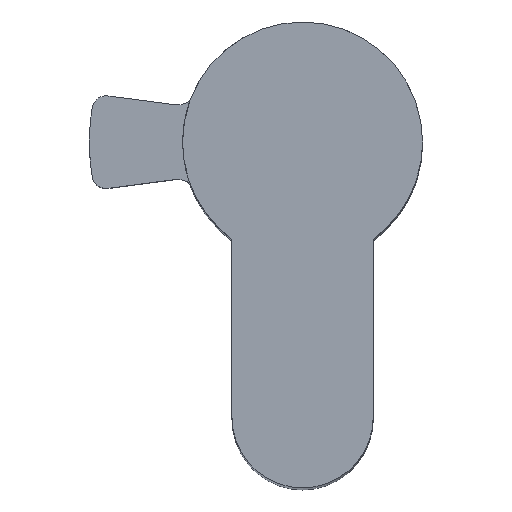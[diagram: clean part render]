
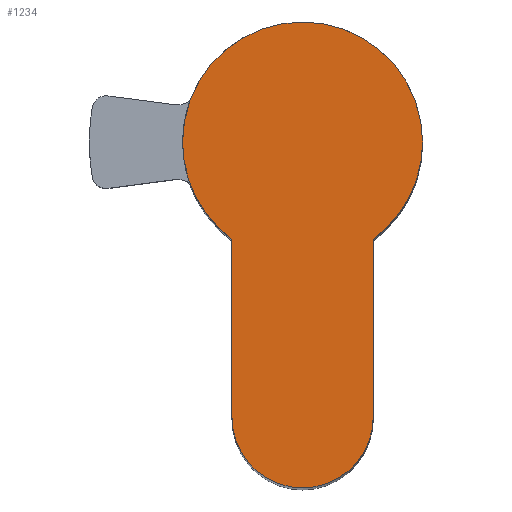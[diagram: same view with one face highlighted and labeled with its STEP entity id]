
A CAD part, top view. The second image highlights one B-rep face of the part: STEP entity #1234.
In plain terms, the highlighted planar face has unit normal (0, 0, 1).
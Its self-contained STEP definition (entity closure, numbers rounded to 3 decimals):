
#16 = AXIS2_PLACEMENT_3D ( 'NONE', #340, #323, #1063 ) ;
#25 = ORIENTED_EDGE ( 'NONE', *, *, #383, .T. ) ;
#47 = DIRECTION ( 'NONE',  ( 1., 0., 0. ) ) ;
#104 = VERTEX_POINT ( 'NONE', #726 ) ;
#107 = EDGE_CURVE ( 'NONE', #1412, #104, #352, .T. ) ;
#114 = VERTEX_POINT ( 'NONE', #1067 ) ;
#138 = LINE ( 'NONE', #1361, #883 ) ;
#158 = VERTEX_POINT ( 'NONE', #295 ) ;
#160 = CARTESIAN_POINT ( 'NONE',  ( -5., -6.874, 10. ) ) ;
#185 = ORIENTED_EDGE ( 'NONE', *, *, #365, .T. ) ;
#198 = CARTESIAN_POINT ( 'NONE',  ( 0., 0., 10. ) ) ;
#220 = DIRECTION ( 'NONE',  ( 1., 0., 0. ) ) ;
#259 = DIRECTION ( 'NONE',  ( 0., 1., 0. ) ) ;
#295 = CARTESIAN_POINT ( 'NONE',  ( 5., -19.5, 10. ) ) ;
#323 = DIRECTION ( 'NONE',  ( 0., 0., 1. ) ) ;
#325 = AXIS2_PLACEMENT_3D ( 'NONE', #770, #508, #47 ) ;
#340 = CARTESIAN_POINT ( 'NONE',  ( 0., -19.5, 10. ) ) ;
#352 = CIRCLE ( 'NONE', #524, 8.5 ) ;
#357 = CIRCLE ( 'NONE', #1249, 8.5 ) ;
#365 = EDGE_CURVE ( 'NONE', #1475, #158, #1174, .T. ) ;
#383 = EDGE_CURVE ( 'NONE', #955, #1475, #940, .T. ) ;
#410 = CIRCLE ( 'NONE', #1520, 8.5 ) ;
#444 = DIRECTION ( 'NONE',  ( 1., 0., 0. ) ) ;
#508 = DIRECTION ( 'NONE',  ( 0., 0., 1. ) ) ;
#513 = ORIENTED_EDGE ( 'NONE', *, *, #1369, .T. ) ;
#516 = EDGE_CURVE ( 'NONE', #158, #1412, #138, .T. ) ;
#524 = AXIS2_PLACEMENT_3D ( 'NONE', #583, #735, #719 ) ;
#548 = EDGE_LOOP ( 'NONE', ( #838, #513, #1502, #25, #185, #814 ) ) ;
#549 = CARTESIAN_POINT ( 'NONE',  ( 5., -6.874, 10. ) ) ;
#583 = CARTESIAN_POINT ( 'NONE',  ( 0., 0., 10. ) ) ;
#647 = VECTOR ( 'NONE', #1417, 1000. ) ;
#719 = DIRECTION ( 'NONE',  ( 1., 0., 0. ) ) ;
#726 = CARTESIAN_POINT ( 'NONE',  ( 8.5, 0., 10. ) ) ;
#735 = DIRECTION ( 'NONE',  ( 0., 0., 1. ) ) ;
#758 = FACE_OUTER_BOUND ( 'NONE', #548, .T. ) ;
#770 = CARTESIAN_POINT ( 'NONE',  ( 0., 0., 10. ) ) ;
#814 = ORIENTED_EDGE ( 'NONE', *, *, #516, .T. ) ;
#825 = CARTESIAN_POINT ( 'NONE',  ( 0., 0., 10. ) ) ;
#838 = ORIENTED_EDGE ( 'NONE', *, *, #107, .T. ) ;
#881 = EDGE_CURVE ( 'NONE', #114, #955, #410, .T. ) ;
#883 = VECTOR ( 'NONE', #259, 1000. ) ;
#940 = LINE ( 'NONE', #1431, #647 ) ;
#955 = VERTEX_POINT ( 'NONE', #160 ) ;
#1063 = DIRECTION ( 'NONE',  ( 1., 0., 0. ) ) ;
#1067 = CARTESIAN_POINT ( 'NONE',  ( -8.5, 0., 10. ) ) ;
#1174 = CIRCLE ( 'NONE', #16, 5. ) ;
#1234 = ADVANCED_FACE ( 'NONE', ( #758 ), #1523, .T. ) ;
#1249 = AXIS2_PLACEMENT_3D ( 'NONE', #198, #1271, #444 ) ;
#1271 = DIRECTION ( 'NONE',  ( 0., 0., 1. ) ) ;
#1312 = DIRECTION ( 'NONE',  ( 0., 0., 1. ) ) ;
#1361 = CARTESIAN_POINT ( 'NONE',  ( 5., -19.5, 10. ) ) ;
#1369 = EDGE_CURVE ( 'NONE', #104, #114, #357, .T. ) ;
#1412 = VERTEX_POINT ( 'NONE', #549 ) ;
#1417 = DIRECTION ( 'NONE',  ( 0., -1., 0. ) ) ;
#1431 = CARTESIAN_POINT ( 'NONE',  ( -5., -6.874, 10. ) ) ;
#1464 = CARTESIAN_POINT ( 'NONE',  ( -5., -19.5, 10. ) ) ;
#1475 = VERTEX_POINT ( 'NONE', #1464 ) ;
#1502 = ORIENTED_EDGE ( 'NONE', *, *, #881, .T. ) ;
#1520 = AXIS2_PLACEMENT_3D ( 'NONE', #825, #1312, #220 ) ;
#1523 = PLANE ( 'NONE',  #325 ) ;
